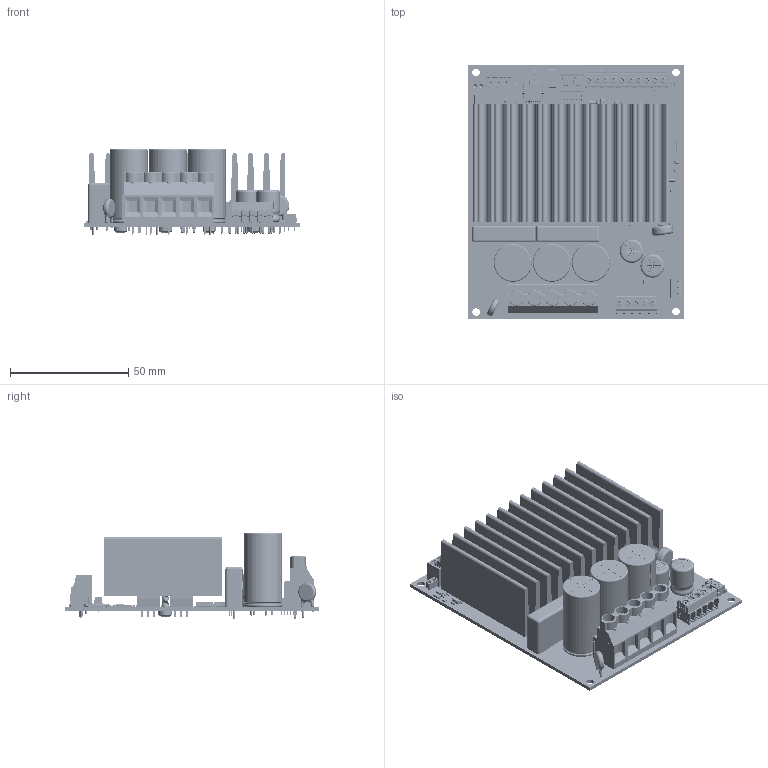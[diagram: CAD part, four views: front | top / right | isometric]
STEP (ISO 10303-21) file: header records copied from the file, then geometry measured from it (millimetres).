
FILE_DESCRIPTION(('STEP AP214'),'1');
FILE_NAME('EM-366_v2_BoardAndModels.step','2019-11-08T09:07:26',(' '),(' '),'Spatial InterOp 3D','XD3DPlugin XRACreate',' ');
FILE_SCHEMA(('automotive_design'));
Length unit declared in the file: millimetre
Products named in the file (163): Submodel-AssyDefn_1; M3X10 THREADFORMING SCREW, TORX HEAD.step; EM-366_v2_BoardAndModels; Submodel-C:\Users\Tino Hellberg\works\3D kokeiluja\EM-366_v2_PCB\3D\Input_S\pxc_1984620_01_PT-1-5-3-3-5-H_3D.xtd; pxc_1984620_01_PT-1-5-3-3-5-H_3D; Submodel-PT1.5_slash_3-3.5-H_part_simplified_CON-H3-7.6_slash_9.2_slash_3.5; DesignRootModel; Submodel-C:\Users\Tino Hellberg\works\3D kokeiluja\EM-366_v2_PCB\3D\Input_S\pxc_1984617_01_PT-1-5-2-3-5-H_3D.xtd; pxc_1984617_01_PT-1-5-2-3-5-H_3D; Submodel-PT1.5_slash_2-3.5-H_part_simplified_CON-H2-7.6_slash_9.2_slash_3.5; Submodel-C:\Users\Tino Hellberg\works\3D kokeiluja\EM-366_v2_PCB\3D\Input_S\MO-187CA.xtd; MO-187CA; Submodel-NC7WZ86_MO187_DUAL_2-INPUT_XOR_part_simplified_MO-187; Submodel-C:\Users\Tino Hellberg\works\3D kokeiluja\EM-366_v2_PCB\3D\Input_S\LED RED 0603.xtd; LED RED 0603; Submodel-WL-SMCW_0603_LED-RED_part_simplified_0603_LED; Submodel-C:\Users\Tino Hellberg\works\3D kokeiluja\EM-366_v2_PCB\3D\Input_S\Cap-EL_lpar_16x31_5x7_5_rpar_.xtd; Cap-EL(16x31_5x7_5); Submodel-CAPE_RAD_1000UF-63V-105C_16-31-7.5_part_simplified_EL-RAD-16_slash_31_slash_7.5; Submodel-C:\Users\Tino Hellberg\works\3D kokeiluja\EM-366_v2_PCB\3D\Input_S\sk407.xtd; sk407; Submodel-HS_SK407-50-SA_part_simplified_HS-SK407-50SA; Submodel-C:\Users\Tino Hellberg\works\3D kokeiluja\EM-366_v2_PCB\3D\Input_S\CAP 0603.xtd; CAP 0603; Submodel-CAP0603_10NF_part_simplified_0603; Submodel-C:\Users\Tino Hellberg\works\3D kokeiluja\EM-366_v2_PCB\3D\Input_S\RES 0805.xtd; RES 0805; Submodel-RES0805_1M5_part_simplified_0805; Submodel-C:\Users\Tino Hellberg\works\3D kokeiluja\EM-366_v2_PCB\3D\Input_S\DO-214AB-SMC.xtd; DO-214AB-SMC; Submodel-MBRS360T3_3A60V-SCHOTTKY_SMC_part_simplified_SMC; Submodel-RES0805_100K_part_simplified_0805; Submodel-CAP0603_1NF_part_simplified_0603; Submodel-CAP0603_100NF_part_simplified_0603; Submodel-RES0805_4K7_part_simplified_0805; Submodel-RES0805_10K_part_simplified_0805; Submodel-RES0805_100R_part_simplified_0805; Submodel-C:\Users\Tino Hellberg\works\3D kokeiluja\EM-366_v2_PCB\3D\Input_S\Cap 3_3uF 100V.xtd; Cap 3_3uF 100V; Submodel-CAP_RAD_3.3UF-100V_26-7-16-22.5_part_simplified_CAP-RAD-26_slash_7_slash_16.5_slash_22.5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
Assembly tree (287 placements, depth 5):
  EM-366_v2_BoardAndModels
    Submodel-AssyDefn_1  x4
      M3X10 THREADFORMING SCREW, TORX HEAD.step
    DesignRootModel
      Submodel-PT1.5_slash_3-3.5-H_part_simplified_CON-H3-7.6_slash_9.2_slash_3.5
        Submodel-C:\Users\Tino Hellberg\works\3D kokeiluja\EM-366_v2_PCB\3D\Input_S\pxc_1984620_01_PT-1-5-3-3-5-H_3D.xtd
          pxc_1984620_01_PT-1-5-3-3-5-H_3D
      Submodel-PT1.5_slash_2-3.5-H_part_simplified_CON-H2-7.6_slash_9.2_slash_3.5  x6
        Submodel-C:\Users\Tino Hellberg\works\3D kokeiluja\EM-366_v2_PCB\3D\Input_S\pxc_1984617_01_PT-1-5-2-3-5-H_3D.xtd
          pxc_1984617_01_PT-1-5-2-3-5-H_3D
      Submodel-NC7WZ86_MO187_DUAL_2-INPUT_XOR_part_simplified_MO-187
        Submodel-C:\Users\Tino Hellberg\works\3D kokeiluja\EM-366_v2_PCB\3D\Input_S\MO-187CA.xtd
          MO-187CA
      Submodel-WL-SMCW_0603_LED-RED_part_simplified_0603_LED
        Submodel-C:\Users\Tino Hellberg\works\3D kokeiluja\EM-366_v2_PCB\3D\Input_S\LED RED 0603.xtd
          LED RED 0603
      Submodel-CAPE_RAD_1000UF-63V-105C_16-31-7.5_part_simplified_EL-RAD-16_slash_31_slash_7.5  x3
        Submodel-C:\Users\Tino Hellberg\works\3D kokeiluja\EM-366_v2_PCB\3D\Input_S\Cap-EL_lpar_16x31_5x7_5_rpar_.xtd
          Cap-EL(16x31_5x7_5)
      Submodel-HS_SK407-50-SA_part_simplified_HS-SK407-50SA
        Submodel-C:\Users\Tino Hellberg\works\3D kokeiluja\EM-366_v2_PCB\3D\Input_S\sk407.xtd
          sk407
      Submodel-CAP0603_10NF_part_simplified_0603
        Submodel-C:\Users\Tino Hellberg\works\3D kokeiluja\EM-366_v2_PCB\3D\Input_S\CAP 0603.xtd
          CAP 0603
      Submodel-RES0805_1M5_part_simplified_0805
        Submodel-C:\Users\Tino Hellberg\works\3D kokeiluja\EM-366_v2_PCB\3D\Input_S\RES 0805.xtd
          RES 0805
      Submodel-MBRS360T3_3A60V-SCHOTTKY_SMC_part_simplified_SMC
        Submodel-C:\Users\Tino Hellberg\works\3D kokeiluja\EM-366_v2_PCB\3D\Input_S\DO-214AB-SMC.xtd
          DO-214AB-SMC
      Submodel-RES0805_100K_part_simplified_0805  x3
        Submodel-C:\Users\Tino Hellberg\works\3D kokeiluja\EM-366_v2_PCB\3D\Input_S\RES 0805.xtd
          RES 0805
      Submodel-CAP0603_1NF_part_simplified_0603  x7
        Submodel-C:\Users\Tino Hellberg\works\3D kokeiluja\EM-366_v2_PCB\3D\Input_S\CAP 0603.xtd
          CAP 0603
      Submodel-CAP0603_100NF_part_simplified_0603  x15
        Submodel-C:\Users\Tino Hellberg\works\3D kokeiluja\EM-366_v2_PCB\3D\Input_S\CAP 0603.xtd
          CAP 0603
      Submodel-RES0805_4K7_part_simplified_0805  x2
        Submodel-C:\Users\Tino Hellberg\works\3D kokeiluja\EM-366_v2_PCB\3D\Input_S\RES 0805.xtd
          RES 0805
      Submodel-RES0805_10K_part_simplified_0805  x13
        Submodel-C:\Users\Tino Hellberg\works\3D kokeiluja\EM-366_v2_PCB\3D\Input_S\RES 0805.xtd
          RES 0805
      Submodel-RES0805_100R_part_simplified_0805  x2
        Submodel-C:\Users\Tino Hellberg\works\3D kokeiluja\EM-366_v2_PCB\3D\Input_S\RES 0805.xtd
          RES 0805
      Submodel-CAP_RAD_3.3UF-100V_26-7-16-22.5_part_simplified_CAP-RAD-26_slash_7_slash_16.5_slash_22.5  x2
        Submodel-C:\Users\Tino Hellberg\works\3D kokeiluja\EM-366_v2_PCB\3D\Input_S\Cap 3_3uF 100V.xtd
          Cap 3_3uF 100V
      Submodel-PT2.5_slash_2-5.0-H_part_simplified_CON-H2-9_slash_13.5_slash_5.0
        Submodel-C:\Users\Tino Hellberg\works\3D kokeiluja\EM-366_v2_PCB\3D\Input_S\pxc_1935776_00_PT-2-5-2-5-0-H_3D.xtd
          pxc_1935776_00_PT-2-5-2-5-0-H_3D
      Submodel-MKDS5_slash_3-7.62_part_simplified_CONS-H3-12.5_slash_22.8_slash_7.62
        Submodel-C:\Users\Tino Hellberg\works\3D kokeiluja\EM-366_v2_PCB\3D\Input_S\pxc_1704936_03_MKDS-5-3-7-62_3D.xtd
          pxc_1704936_03_MKDS-5-3-7-62_3D
      Submodel-MKDS5_slash_2-7.62_part_simplified_CONS-H2-12.5_slash_15.2_slash_7.62
        Submodel-C:\Users\Tino Hellberg\works\3D kokeiluja\EM-366_v2_PCB\3D\Input_S\pxc_1868076_04_MKDS-5-2-7-62_3D.xtd
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Bounding box: 91 x 107.5 x 36.41 mm (x, y, z)
Volume: 108419.6 mm3; surface area: 90894.1 mm2
Topology: 409 solids, 1731 shells, 23823 faces, 64803 edges, 42844 vertices
Faces by surface type: plane 14178, cylinder 5549, bspline 1931, torus 999, sphere 960, cone 206
Full cylindrical faces by diameter (mm): 0.6 x2, 2 x4, 3.2 x8, 9 x2
Entity records: 382230 total; most frequent: CARTESIAN_POINT 93536, ORIENTED_EDGE 44867, DIRECTION 43342, EDGE_CURVE 22860, LINE 16268, VECTOR 16268, VERTEX_POINT 15022, AXIS2_PLACEMENT_3D 13537
